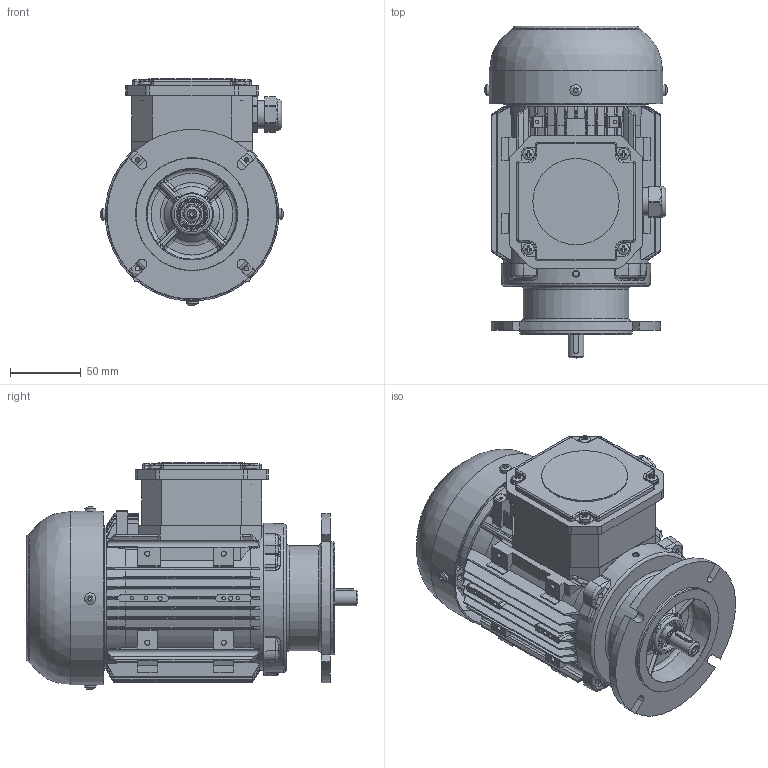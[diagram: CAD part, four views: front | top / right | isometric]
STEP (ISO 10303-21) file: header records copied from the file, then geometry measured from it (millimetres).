
FILE_DESCRIPTION(/* description */ (''),/* implementation_level */ '2;1');
FILE_NAME(/* name */ 'OUTLOOK VIEW QH63 FA B5 - REDUCED FF100 SPL.stp',/* time_stamp */ '2021-09-21T11:04:45+03:00',/* author */ (''),/* organization */ (''),/* preprocessor_version */ 'ST-DEVELOPER v16',/* originating_system */ 'SIEMENS PLM Software NX 11.0',/* authorisation */ '');
FILE_SCHEMA (('AUTOMOTIVE_DESIGN { 1 0 10303 214 3 1 1 1 }'));
Products named in the file (1): 260652D491E0rv71
Bounding box: 129.21 x 234.84 x 160.6 mm (x, y, z)
Volume: 576151.3 mm3; surface area: 380240.2 mm2
Topology: 39 solids, 41 shells, 2654 faces, 6955 edges, 4438 vertices
Faces by surface type: plane 1146, cylinder 850, bspline 275, cone 208, torus 131, sphere 30, extrusion 14
Full cylindrical faces by diameter (mm): 1.7 x2, 2.5 x12, 3 x4, 3.15 x1, 3.3 x10, 3.65 x14, 4 x9, 4.3 x1, 4.5 x4, 4.65 x4, 4.8 x4, 5 x4, 5.1 x1, 5.5 x1, 8 x9, 10.4 x1, 11 x2, 11.4 x2, 11.5 x1, 12 x5, 12.2 x1, 12.5 x1, 13 x1, 14.5 x1, 15.5 x2, 18 x1, 18.45 x8, 18.5 x1, 18.9 x1, 19.1 x2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
Entity records: 92777 total; most frequent: CARTESIAN_POINT 26353, ORIENTED_EDGE 12936, DIRECTION 12200, EDGE_CURVE 6468, AXIS2_PLACEMENT_3D 4628, VERTEX_POINT 4345, EDGE_LOOP 3249, VECTOR 2944
